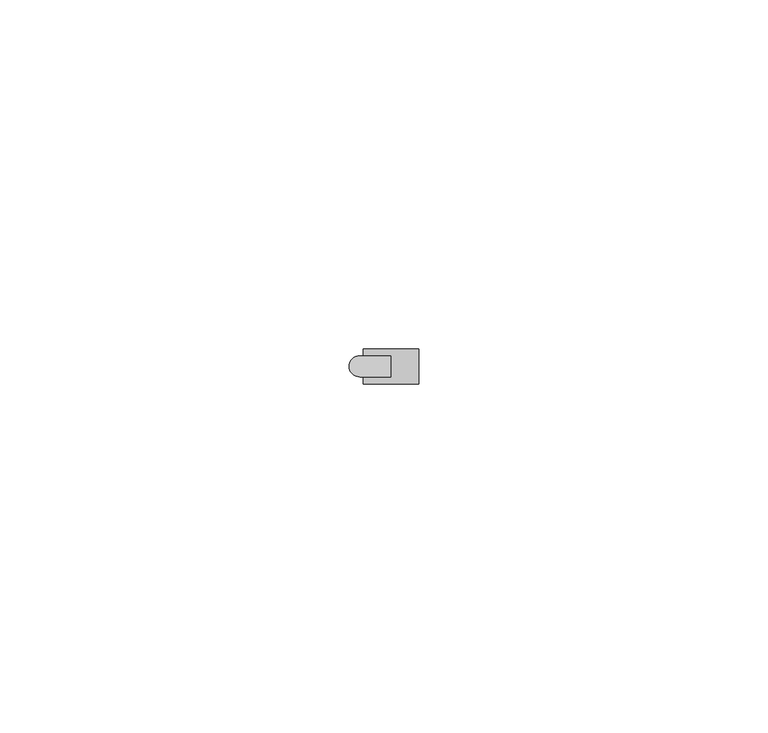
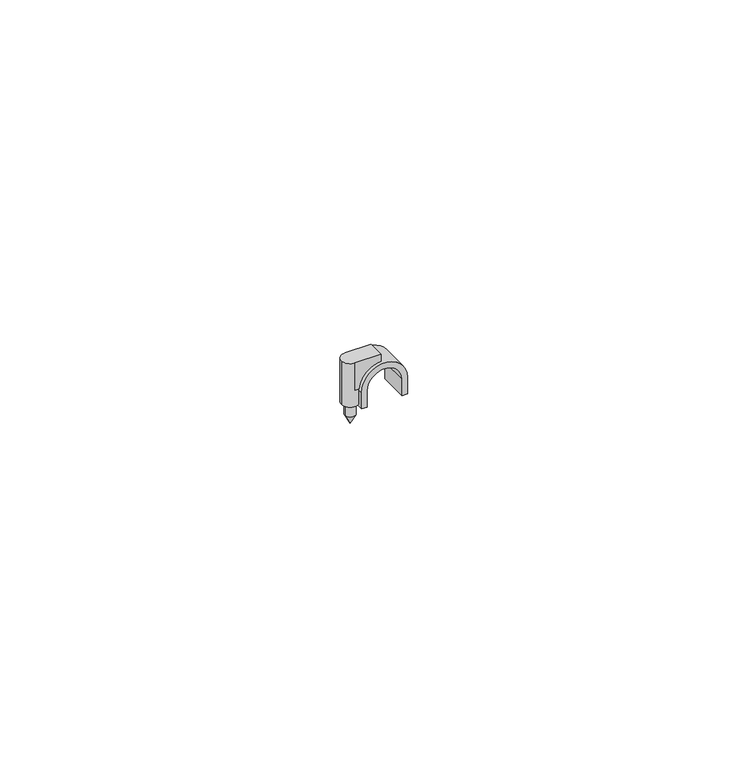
"""IFC4 building model written with IfcOpenShell, lengths in millimetres: cable carrier fitting geometry, КНС_СкобаПластиковаяСГвоздем_DKC : д.5 - 6мм."""

from ifc_helpers import new_model, si_unit, point, frame, frame_2d, origin, place, context, project, spatial, polyline, circle_curve, trimmed, segment, composite_curve, outline, extrude, source, transform, mapped, element, save
from ifc_brep_helpers import plane_surface, cylinder_surface, revolved_surface, advanced_brep


def cable_carrier_fitting_7bb26303(model_context):
    return source(origin(), model_context, "Body", "SolidModel", [
        advanced_brep(
        [(-3.6, 0.0, 0.0), (-5.4, 0.0, 0.0), (-4.5, 0.0, 0.0), (-3.6, 0.0, -2.2), (-5.4, 0.0, -2.2), (-4.5, 0.0, -4.0)],
        [
            (0, 1, circle_curve(frame((-4.5, 0.0, 0.0), z_axis=(0.0, 0.0, 1.0), x_axis=(-1.0, 0.0, 0.0)), 0.9)),
            (1, 2),
            (2, 0),
            (1, 0, circle_curve(frame((-4.5, 0.0, 0.0), z_axis=(0.0, 0.0, 1.0), x_axis=(-1.0, 0.0, 0.0)), 0.9)),
            (3, 4, circle_curve(frame((-4.5, 0.0, -2.2), z_axis=(0.0, 0.0, 1.0), x_axis=(-1.0, 0.0, 0.0)), 0.9)),
            (4, 1),
            (0, 3),
            (4, 3, circle_curve(frame((-4.5, 0.0, -2.2), z_axis=(0.0, 0.0, 1.0), x_axis=(-1.0, 0.0, 0.0)), 0.9)),
            (5, 4),
            (3, 5),
        ],
        [
            plane_surface(frame((-4.5, 0.0, 0.0), z_axis=(0.0, 0.0, 1.0), x_axis=(-1.0, 0.0, 0.0))),
            cylinder_surface(frame((-4.5, 0.0, 19.2919306), z_axis=(0.0, 0.0, -1.0), x_axis=(-1.0, 0.0, 0.0)), 0.9),
            revolved_surface(polyline([(-5.4, 0.0, -2.2), (-4.5, 0.0, -4.0)]), (-4.5, 0.0, 19.2919306), (0.0, 0.0, -1.0)),
        ],
        [
            (0, [[1, 2, 3]]),
            (0, [[4, -3, -2]]),
            (1, [[5, 6, -1, 7]]),
            (1, [[8, -7, -4, -6]]),
            (2, [[9, -5, 10]]),
            (2, [[-10, -8, -9]]),
        ],
    ),
        advanced_brep(
        [(-3.0, -1.5, 3.0), (0.0, -1.5, 6.0), (0.0, -1.5, 8.0), (-4.5, -1.5, 8.0), (-4.5, -1.5, 3.0), (-3.0, 1.5, 3.0), (-4.5, 1.5, 3.0), (-4.5, 1.5, 8.0), (0.0, 1.5, 8.0), (0.0, 1.5, 6.0), (-3.0, 0.0, 3.0), (-6.0, 0.0, 8.0), (-3.0, 0.0, 0.0), (-6.0, 0.0, 0.0), (-4.5, 0.0, 0.0)],
        [
            (0, 1, circle_curve(frame((0.0, -1.5, 3.0), z_axis=(0.0, 1.0, 0.0), x_axis=(1.0, 0.0, 0.0)), 3.0)),
            (1, 2),
            (2, 3),
            (3, 4),
            (4, 0),
            (5, 6),
            (6, 7),
            (7, 8),
            (8, 9),
            (9, 5, circle_curve(frame((0.0, 1.5, 3.0), z_axis=(0.0, -1.0, 0.0), x_axis=(1.0, 0.0, 0.0)), 3.0)),
            (0, 10),
            (10, 5),
            (9, 1),
            (8, 2),
            (7, 11, circle_curve(frame((-4.5, 0.0, 8.0), z_axis=(0.0, 0.0, 1.0), x_axis=(-1.0, 0.0, 0.0)), 1.5)),
            (11, 3, circle_curve(frame((-4.5, 0.0, 8.0), z_axis=(0.0, 0.0, 1.0), x_axis=(-1.0, 0.0, 0.0)), 1.5)),
            (4, 10, circle_curve(frame((-4.5, 0.0, 3.0), z_axis=(0.0, 0.0, 1.0), x_axis=(-1.0, 0.0, 0.0)), 1.5)),
            (10, 6, circle_curve(frame((-4.5, 0.0, 3.0), z_axis=(0.0, 0.0, 1.0), x_axis=(-1.0, 0.0, 0.0)), 1.5)),
            (12, 13, circle_curve(frame((-4.5, 0.0, 0.0), z_axis=(0.0, 0.0, 1.0), x_axis=(-1.0, 0.0, 0.0)), 1.5)),
            (13, 11),
            (10, 12),
            (13, 12, circle_curve(frame((-4.5, 0.0, 0.0), z_axis=(0.0, 0.0, 1.0), x_axis=(-1.0, 0.0, 0.0)), 1.5)),
            (12, 14),
            (14, 13),
        ],
        [
            plane_surface(frame((3.0, -1.5, 3.0), z_axis=(0.0, -1.0, 0.0), x_axis=(0.0, 0.0, -1.0))),
            plane_surface(frame((3.0, 1.5, 3.0), z_axis=(0.0, 1.0, 0.0), x_axis=(0.0, 0.0, 1.0))),
            revolved_surface(polyline([(3.0, 1.5, 3.0), (3.0, -1.5, 3.0)]), (0.0, 1.5, 3.0), (0.0, 1.0, 0.0)),
            plane_surface(frame((0.0, -1.5, 6.0), z_axis=(1.0, 0.0, 0.0), x_axis=(0.0, 1.0, 0.0))),
            plane_surface(frame((0.0, -1.5, 8.0), z_axis=(0.0, 0.0, 1.0), x_axis=(0.0, 1.0, 0.0))),
            plane_surface(frame((-4.5, -1.5, 3.0), z_axis=(0.0, 0.0, -1.0), x_axis=(0.0, 1.0, 0.0))),
            cylinder_surface(frame((-4.5, 0.0, 19.2919306), z_axis=(0.0, 0.0, -1.0), x_axis=(-1.0, 0.0, 0.0)), 1.5),
            plane_surface(frame((-4.5, 0.0, 0.0), z_axis=(0.0, 0.0, -1.0), x_axis=(-1.0, 0.0, 0.0))),
        ],
        [
            (0, [[1, 2, 3, 4, 5]]),
            (1, [[6, 7, 8, 9, 10]]),
            (2, [[-1, 11, 12, -10, 13]]),
            (3, [[-2, -13, -9, 14]]),
            (4, [[-3, -14, -8, 15, 16]]),
            (5, [[-5, 17, -11]]),
            (5, [[-6, -12, 18]]),
            (6, [[19, 20, -15, -7, -18, 21]]),
            (6, [[-20, 22, -21, -17, -4, -16]]),
            (7, [[-19, 23, 24]]),
            (7, [[-22, -24, -23]]),
        ],
    ),
        extrude(outline(composite_curve([segment(polyline([(3.0, 3.0), (0.0, 3.0), (0.0, 4.0), (3.0, 4.0)]), True, "CONTINUOUS"), segment(trimmed(circle_curve(frame_2d((3.0, 0.0)), 4.0), [point((3.0, 4.0))], [point((3.0, -4.0))], False, "CARTESIAN"), True, "CONTINUOUS"), segment(polyline([(3.0, -4.0), (0.0, -4.0), (0.0, -3.0), (3.0, -3.0)]), True, "CONTINUOUS"), segment(trimmed(circle_curve(frame_2d((3.0, 0.0)), 3.0), [point((3.0, -3.0))], [point((3.0, 3.0))], True, "CARTESIAN"), True, "CONTINUOUS")], self_intersect=False)), frame((0.0, -2.5, 0.0), z_axis=(0.0, 1.0, 0.0), x_axis=(0.0, 0.0, 1.0)), (0.0, 0.0, 1.0), 5.0),
    ])


if __name__ == "__main__":
    model = new_model("IFC4")
    model_context = context("Model", 3, world=origin())
    ifc_project = project(units=[si_unit("LENGTHUNIT", "METRE", prefix="MILLI")], contexts=[model_context])
    site = spatial("IfcSite", under=ifc_project)
    building = spatial("IfcBuilding", under=site)
    placement = place(None, origin())
    cable_carrier_fitting_shape = cable_carrier_fitting_7bb26303(model_context)
    element("IfcCableCarrierFitting", 1, ObjectType="КНС_СкобаПластиковаяСГвоздем_DKC : д.5 - 6мм", at=placement, inside=building, context=model_context, shape_type="MappedRepresentation", body=[
        mapped(cable_carrier_fitting_shape, transform((0.0, 0.0, 0.0), x_axis=(1.0, 0.0, 0.0), y_axis=(0.0, 1.0, 0.0), z_axis=(0.0, 0.0, 1.0))),
    ])
    save(model, "model.ifc")
